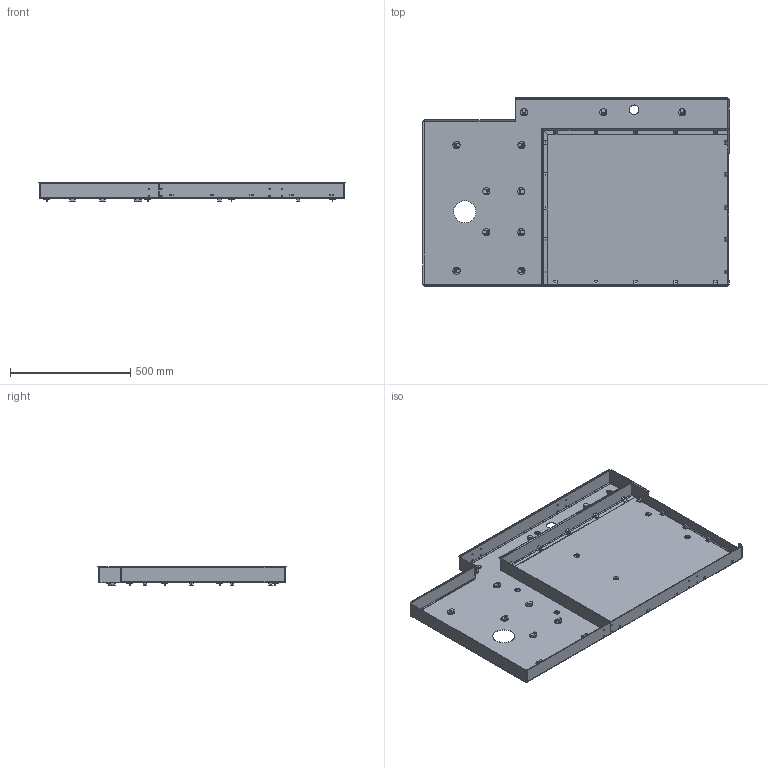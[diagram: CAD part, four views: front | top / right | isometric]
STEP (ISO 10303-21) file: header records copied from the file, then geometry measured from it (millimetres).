
FILE_DESCRIPTION(('CATIA V6 STEP','CAx-IF Rec.Pracs.--- Model Styling and Organization---1.5--- 2016-08-15','CAx-IF Rec.Pracs.---Supplemental Geometry---1.0---2011-11-01','CAx-IF Rec.Pracs.--- Composite Materials ---1.1---2010-07-15'),'2;1');
FILE_NAME('\\?\C:\Yudakov\Ту-214.536\Поддон\VA74.46.7582.300.130.stp','2025-08-19T06:57:37+00:00',('none'),('none'),'3DEXPERIENCE Platform3DEXPERIENCE R2021x HotFix 9','3DEXPERIENCE Platform STEP AP203 Edition 2 v2','none');
FILE_SCHEMA(('AP203_CONFIGURATION_CONTROLLED_3D_DESIGN_OF_MECHANICAL_PARTS_AND_ASSEMBLIES_MIM_LF { 1 0 10303 403 3 1 4}'));
Length unit declared in the file: millimetre
Products named in the file (9): ВА74.46.7582.300.130; ВА74.36.7581.300.244; ВА74.36.7581.300.247; ВА74.36.7581.300.251; ВА74.46.7582.300.131; ВА74.46.7582.300.132; ВА74.46.7582.300.133; ВА74.46.7582.300.134; ВА74.46.7582.300.135
Assembly tree (61 placements, depth 2):
  ВА74.46.7582.300.130
    ВА74.36.7581.300.244  x11
    ВА74.36.7581.300.247  x20
    ВА74.36.7581.300.251  x16
    ВА74.46.7582.300.131
    ВА74.46.7582.300.132
    ВА74.46.7582.300.133
    ВА74.46.7582.300.134
    ВА74.46.7582.300.135  x10
Bounding box: 1276.4 x 782 x 78.4 mm (x, y, z)
Volume: 1704046.9 mm3; surface area: 2731044.4 mm2
Topology: 61 solids, 61 shells, 1370 faces, 3320 edges, 2077 vertices
Faces by surface type: plane 659, cylinder 515, cone 160, torus 32, bspline 4
Entity records: 9789 total; most frequent: CARTESIAN_POINT 1999, ORIENTED_EDGE 1492, DIRECTION 1466, EDGE_CURVE 746, AXIS2_PLACEMENT_3D 619, VECTOR 476, LINE 476, VERTEX_POINT 443
